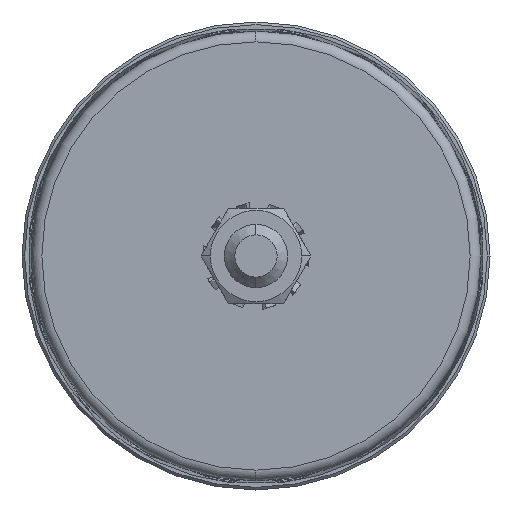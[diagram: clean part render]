
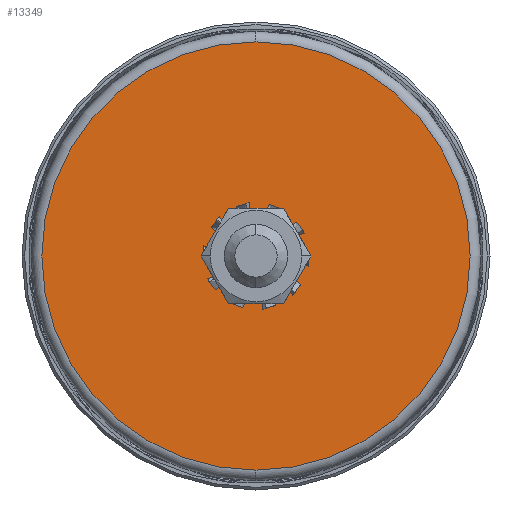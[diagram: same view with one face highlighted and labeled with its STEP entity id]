
A CAD part, front view. The second image highlights one B-rep face of the part: STEP entity #13349.
In plain terms, the highlighted planar face has unit normal (0, -1, 0).
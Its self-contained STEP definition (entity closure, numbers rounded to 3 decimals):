
#1417 = FACE_BOUND ( 'NONE', #2713, .T. ) ;
#1555 = VERTEX_POINT ( 'NONE', #10066 ) ;
#1731 = AXIS2_PLACEMENT_3D ( 'NONE', #6343, #14890, #12550 ) ;
#1807 = FACE_OUTER_BOUND ( 'NONE', #4005, .T. ) ;
#2008 = ORIENTED_EDGE ( 'NONE', *, *, #12199, .T. ) ;
#2211 = CARTESIAN_POINT ( 'NONE',  ( 0., 0., 40.5 ) ) ;
#2713 = EDGE_LOOP ( 'NONE', ( #6025, #3863 ) ) ;
#3313 = DIRECTION ( 'NONE',  ( 0., 1., 0. ) ) ;
#3356 = DIRECTION ( 'NONE',  ( 0., 0., -1. ) ) ;
#3561 = CIRCLE ( 'NONE', #12001, 8. ) ;
#3603 = AXIS2_PLACEMENT_3D ( 'NONE', #11740, #11895, #4482 ) ;
#3863 = ORIENTED_EDGE ( 'NONE', *, *, #15194, .T. ) ;
#4005 = EDGE_LOOP ( 'NONE', ( #2008, #12507 ) ) ;
#4482 = DIRECTION ( 'NONE',  ( 0., 0., -1. ) ) ;
#4631 = DIRECTION ( 'NONE',  ( 0., -1., 0. ) ) ;
#5363 = CARTESIAN_POINT ( 'NONE',  ( 0., 0., -40.5 ) ) ;
#5868 = VERTEX_POINT ( 'NONE', #9158 ) ;
#5880 = AXIS2_PLACEMENT_3D ( 'NONE', #13124, #4631, #3356 ) ;
#6025 = ORIENTED_EDGE ( 'NONE', *, *, #7370, .T. ) ;
#6295 = VERTEX_POINT ( 'NONE', #5363 ) ;
#6343 = CARTESIAN_POINT ( 'NONE',  ( 0., 0., 0. ) ) ;
#7370 = EDGE_CURVE ( 'NONE', #5868, #1555, #3561, .T. ) ;
#8055 = CIRCLE ( 'NONE', #12922, 8. ) ;
#9088 = CARTESIAN_POINT ( 'NONE',  ( 0., 0., 0. ) ) ;
#9158 = CARTESIAN_POINT ( 'NONE',  ( 0., 0., -8. ) ) ;
#9419 = PLANE ( 'NONE',  #5880 ) ;
#10066 = CARTESIAN_POINT ( 'NONE',  ( 0., 0., 8. ) ) ;
#10173 = DIRECTION ( 'NONE',  ( 0., 1., 0. ) ) ;
#10626 = DIRECTION ( 'NONE',  ( 0., 0., -1. ) ) ;
#11740 = CARTESIAN_POINT ( 'NONE',  ( 0., 0., 0. ) ) ;
#11895 = DIRECTION ( 'NONE',  ( 0., -1., 0. ) ) ;
#11951 = EDGE_CURVE ( 'NONE', #12045, #6295, #14731, .T. ) ;
#12001 = AXIS2_PLACEMENT_3D ( 'NONE', #9088, #10173, #15246 ) ;
#12045 = VERTEX_POINT ( 'NONE', #2211 ) ;
#12199 = EDGE_CURVE ( 'NONE', #6295, #12045, #13778, .T. ) ;
#12507 = ORIENTED_EDGE ( 'NONE', *, *, #11951, .T. ) ;
#12550 = DIRECTION ( 'NONE',  ( 0., 0., -1. ) ) ;
#12922 = AXIS2_PLACEMENT_3D ( 'NONE', #14339, #3313, #10626 ) ;
#13124 = CARTESIAN_POINT ( 'NONE',  ( 6., 0., 0. ) ) ;
#13349 = ADVANCED_FACE ( 'NONE', ( #1417, #1807 ), #9419, .T. ) ;
#13778 = CIRCLE ( 'NONE', #1731, 40.5 ) ;
#14339 = CARTESIAN_POINT ( 'NONE',  ( 0., 0., 0. ) ) ;
#14731 = CIRCLE ( 'NONE', #3603, 40.5 ) ;
#14890 = DIRECTION ( 'NONE',  ( 0., -1., 0. ) ) ;
#15194 = EDGE_CURVE ( 'NONE', #1555, #5868, #8055, .T. ) ;
#15246 = DIRECTION ( 'NONE',  ( 0., 0., -1. ) ) ;
